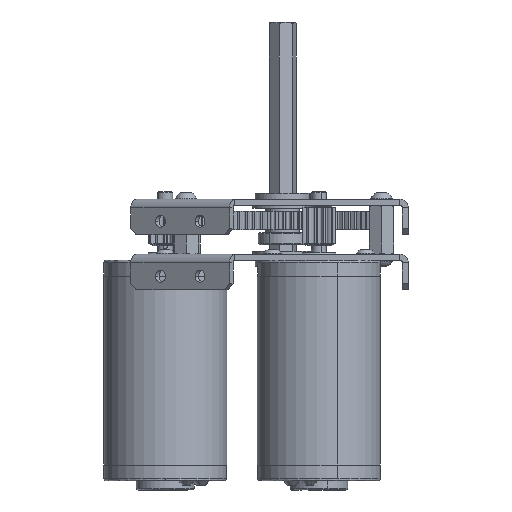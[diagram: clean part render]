
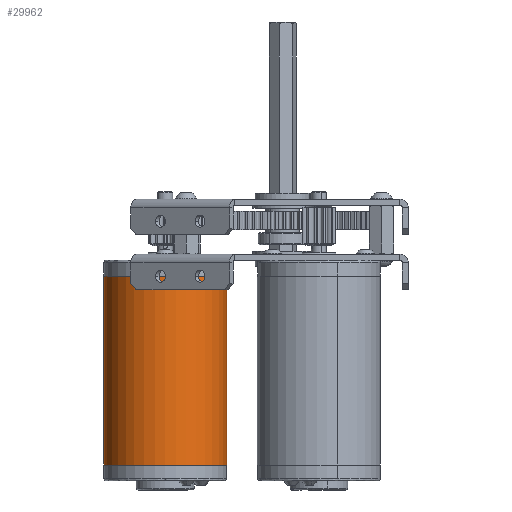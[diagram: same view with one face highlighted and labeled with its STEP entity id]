
A CAD part, left-side view. The second image highlights one B-rep face of the part: STEP entity #29962.
In plain terms, the highlighted cylindrical face has radius 32.004 mm (diameter 64.008 mm), a partial arc.
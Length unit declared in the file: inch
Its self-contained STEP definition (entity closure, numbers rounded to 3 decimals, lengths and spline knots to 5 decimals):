
#14131 = EDGE_LOOP ( 'NONE', ( #40293, #40295, #40301, #40303 ) ) ;
#17218 = EDGE_CURVE ( 'NONE', #47371, #46978, #38741, .T. ) ;
#17221 = EDGE_CURVE ( 'NONE', #46978, #47204, #38746, .T. ) ;
#17226 = EDGE_CURVE ( 'NONE', #47204, #42393, #38754, .T. ) ;
#17233 = EDGE_CURVE ( 'NONE', #47371, #42393, #38767, .T. ) ;
#21399 = CYLINDRICAL_SURFACE ( 'NONE', #43599, 1.26 ) ;
#21404 = FACE_OUTER_BOUND ( 'NONE', #14131, .T. ) ;
#29962 = ADVANCED_FACE ( 'NONE', ( #21404 ), #21399, .T. ) ;
#32498 = DIRECTION ( 'NONE',  ( 0., -1., 0. ) ) ;
#32503 = DIRECTION ( 'NONE',  ( 0., 0., 1. ) ) ;
#32505 = CARTESIAN_POINT ( 'NONE',  ( 1.4, 4.303, 0.75 ) ) ;
#35264 = DIRECTION ( 'NONE',  ( 0., 0., 1. ) ) ;
#35268 = CARTESIAN_POINT ( 'NONE',  ( 1.4, 4.303, -3.438 ) ) ;
#35269 = DIRECTION ( 'NONE',  ( 0., 0., 1. ) ) ;
#35270 = DIRECTION ( 'NONE',  ( 0., -1., 0. ) ) ;
#35272 = CARTESIAN_POINT ( 'NONE',  ( 1.4, 5.563, 0.75 ) ) ;
#35279 = DIRECTION ( 'NONE',  ( 0., 0., 1. ) ) ;
#35280 = CARTESIAN_POINT ( 'NONE',  ( 1.4, 4.303, 0.426 ) ) ;
#35281 = DIRECTION ( 'NONE',  ( 0., 0., -1. ) ) ;
#35282 = DIRECTION ( 'NONE',  ( 0., -1., 0. ) ) ;
#35298 = CARTESIAN_POINT ( 'NONE',  ( 1.4, 3.043, 0.75 ) ) ;
#38741 = CIRCLE ( 'NONE', #50503, 1.26 ) ;
#38746 = LINE ( 'NONE', #35272, #38752 ) ;
#38752 = VECTOR ( 'NONE', #35264, 39.37008 ) ;
#38754 = CIRCLE ( 'NONE', #50507, 1.26 ) ;
#38767 = LINE ( 'NONE', #35298, #38770 ) ;
#38770 = VECTOR ( 'NONE', #35279, 39.37008 ) ;
#40293 = ORIENTED_EDGE ( 'NONE', *, *, #17218, .T. ) ;
#40295 = ORIENTED_EDGE ( 'NONE', *, *, #17221, .T. ) ;
#40301 = ORIENTED_EDGE ( 'NONE', *, *, #17226, .T. ) ;
#40303 = ORIENTED_EDGE ( 'NONE', *, *, #17233, .F. ) ;
#42393 = VERTEX_POINT ( 'NONE', #53494 ) ;
#43599 = AXIS2_PLACEMENT_3D ( 'NONE', #32505, #32503, #32498 ) ;
#46978 = VERTEX_POINT ( 'NONE', #54229 ) ;
#47204 = VERTEX_POINT ( 'NONE', #54629 ) ;
#47371 = VERTEX_POINT ( 'NONE', #54821 ) ;
#50503 = AXIS2_PLACEMENT_3D ( 'NONE', #35268, #35269, #35270 ) ;
#50507 = AXIS2_PLACEMENT_3D ( 'NONE', #35280, #35281, #35282 ) ;
#53494 = CARTESIAN_POINT ( 'NONE',  ( 1.4, 3.043, 0.426 ) ) ;
#54229 = CARTESIAN_POINT ( 'NONE',  ( 1.4, 5.563, -3.438 ) ) ;
#54629 = CARTESIAN_POINT ( 'NONE',  ( 1.4, 5.563, 0.426 ) ) ;
#54821 = CARTESIAN_POINT ( 'NONE',  ( 1.4, 3.043, -3.438 ) ) ;
